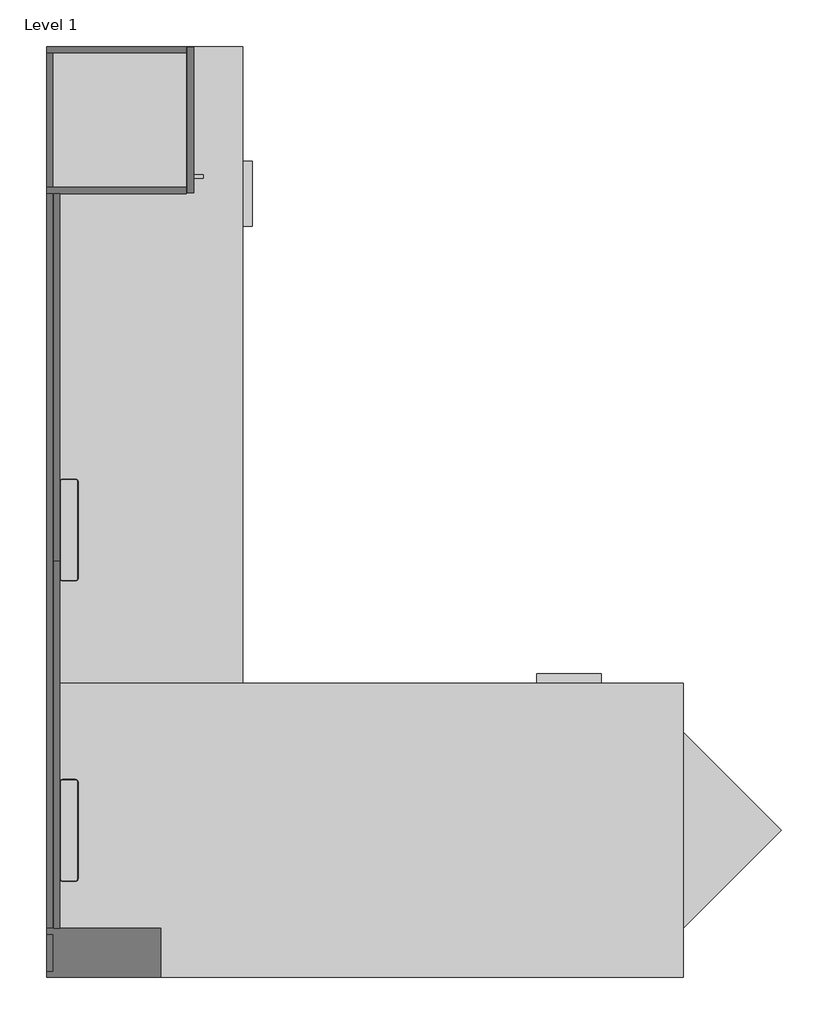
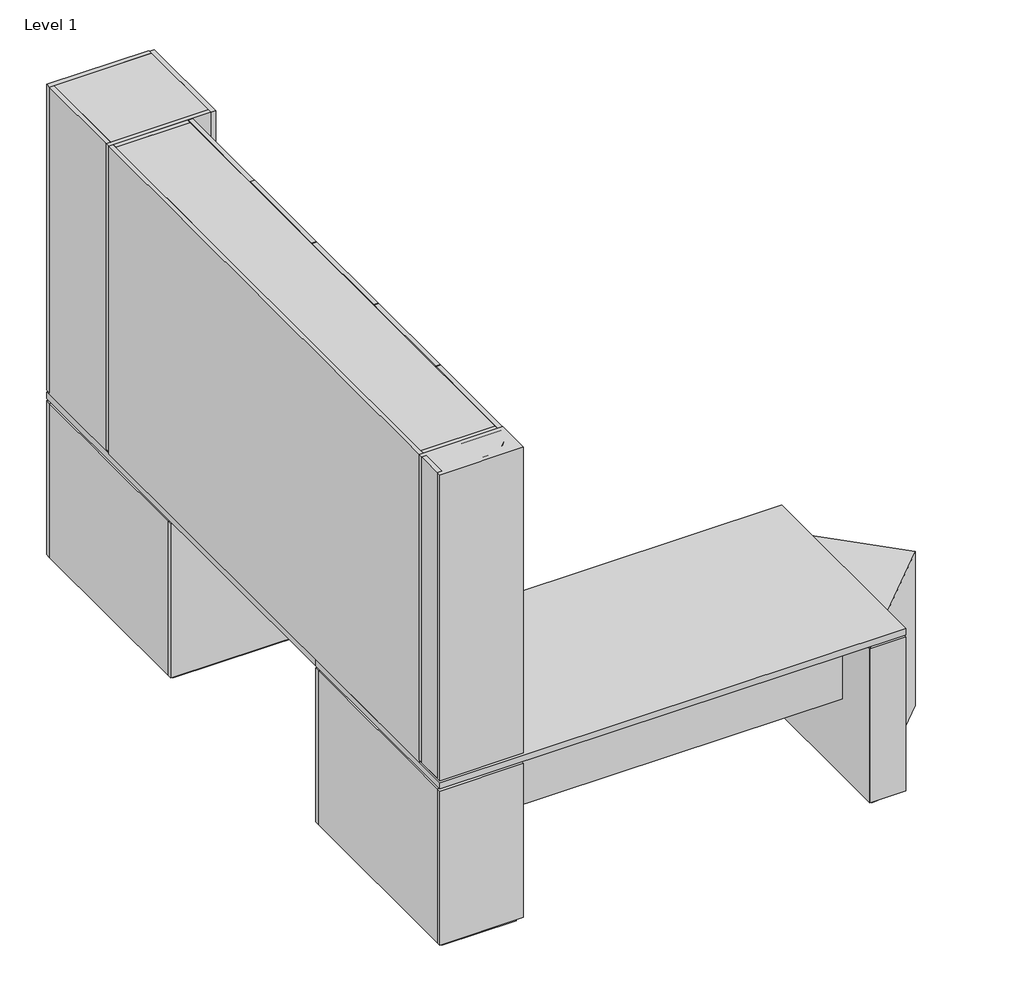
# One storey: 8 proxies.
"""IFC4 building model written with IfcOpenShell, lengths in millimetres."""

from ifc_helpers import new_model, si_unit, origin, place, context, project, spatial, transform, mapped, element, save
from components import generic_models_fad06939, generic_models_ba3b5827, generic_models_84749f6c, generic_models_d2be245a, generic_models_813ad13f, generic_models_dc8f7d69, generic_models_c48dc18b

model = new_model("IFC4")

# Units and contexts
model_context = context("Model", 3, world=origin())
ifc_project = project(units=[si_unit("LENGTHUNIT", "METRE", prefix="MILLI")], contexts=[model_context])

# Site, building, storey
site = spatial("IfcSite", under=ifc_project)
building = spatial("IfcBuilding", under=site)
storey = spatial("IfcBuildingStorey", under=building, Name="Level 1", Elevation=0.0)

# Proxies
placement = place(None, origin())
generic_models_shape = generic_models_fad06939(model_context)
element("IfcBuildingElementProxy", 1, Name="BASYS^24 DEEP PED_LEGAL LAT-FF PED", ObjectType="BASYS^24 DEEP PED_LEGAL LAT-FF PED", at=placement, inside=storey, context=model_context, shape_type="MappedRepresentation", body=[
    mapped(generic_models_shape, transform((304.8, -507.3807943, 352.5316012), x_axis=(0.0, 1.0, 0.0), y_axis=(0.0, 0.0, 1.0), z_axis=(1.0, 0.0, 0.0))),
])
generic_models_2_shape = generic_models_ba3b5827(model_context)
element("IfcBuildingElementProxy", 2, Name="BASYS^OFFICE 1_WARDROBE-18x18x55-RIGHT END", ObjectType="BASYS^OFFICE 1_WARDROBE-18x18x55-RIGHT END", at=placement, inside=storey, context=model_context, shape_type="MappedRepresentation", body=[
    mapped(generic_models_2_shape, transform((0.0, -457.2, 749.3), x_axis=(0.0, 1.0, 0.0), y_axis=(0.0, 0.0, 1.0), z_axis=(1.0, 0.0, 0.0))),
])
generic_models_3_shape = generic_models_84749f6c(model_context)
element("IfcBuildingElementProxy", 3, Name="BASYS^OFFICE 1_WIRE WALL RT-RADIUS END LEG LEFT", ObjectType="BASYS^OFFICE 1_WIRE WALL RT-RADIUS END LEG LEFT", at=placement, inside=storey, context=model_context, shape_type="MappedRepresentation", body=[
    mapped(generic_models_3_shape, transform((0.0, -1981.2, 0.0), x_axis=(1.0, 0.0, 0.0), y_axis=(0.0, 0.0, 1.0), z_axis=(0.0, -1.0, 0.0))),
])
generic_models_4_shape = generic_models_d2be245a(model_context)
element("IfcBuildingElementProxy", 4, Name="MOCKETT^CP2-12in PAPER SLOT", ObjectType="MOCKETT^CP2-12in PAPER SLOT", at=placement, inside=storey, context=model_context, shape_type="MappedRepresentation", body=[
    mapped(generic_models_4_shape, transform((98.425, -1662.509375, 749.3), x_axis=(0.0, 1.0, 0.0), y_axis=(0.0, 0.0, 1.0), z_axis=(1.0, 0.0, 0.0))),
])
element("IfcBuildingElementProxy", 5, Name="MOCKETT^CP2-12in PAPER SLOT", ObjectType="MOCKETT^CP2-12in PAPER SLOT", at=placement, inside=storey, context=model_context, shape_type="MappedRepresentation", body=[
    mapped(generic_models_4_shape, transform((98.425, -2597.15, 749.3), x_axis=(0.0, 1.0, 0.0), y_axis=(0.0, 0.0, 1.0), z_axis=(1.0, 0.0, 0.0))),
])
generic_models_5_shape = generic_models_813ad13f(model_context)
element("IfcBuildingElementProxy", 6, Name="BASYS^RETURN_SEATED RIGHT-78x24", ObjectType="BASYS^RETURN_SEATED RIGHT-78x24", at=placement, inside=storey, context=model_context, shape_type="MappedRepresentation", body=[
    mapped(generic_models_5_shape, transform((609.6, -1981.2, 720.725), x_axis=(0.0, 1.0, 0.0), y_axis=(0.0, 0.0, 1.0), z_axis=(1.0, 0.0, 0.0))),
])
generic_models_6_shape = generic_models_dc8f7d69(model_context)
element("IfcBuildingElementProxy", 7, Name="BASYS^OFFICE 1_CPU STORAGE-14x36x28.38-PARTS SOLID", ObjectType="BASYS^OFFICE 1_CPU STORAGE-14x36x28.38-PARTS SOLID", at=placement, inside=storey, context=model_context, shape_type="MappedRepresentation", body=[
    mapped(generic_models_6_shape, transform((0.0, -2895.6, 19.05), x_axis=(0.0, 1.0, 0.0), y_axis=(0.0, 0.0, 1.0), z_axis=(1.0, 0.0, 0.0))),
])
generic_models_7_shape = generic_models_c48dc18b(model_context)
element("IfcBuildingElementProxy", 8, Name="BASYS^OFFICE 1_HIGH RISE-14x55x90-5 DOORS", ObjectType="BASYS^OFFICE 1_HIGH RISE-14x55x90-5 DOORS", at=placement, inside=storey, context=model_context, shape_type="MappedRepresentation", body=[
    mapped(generic_models_7_shape, transform((0.0, -2762.25, 749.3), x_axis=(0.0, 1.0, 0.0), y_axis=(0.0, 0.0, 1.0), z_axis=(1.0, 0.0, 0.0))),
])

save(model, "model.ifc")
